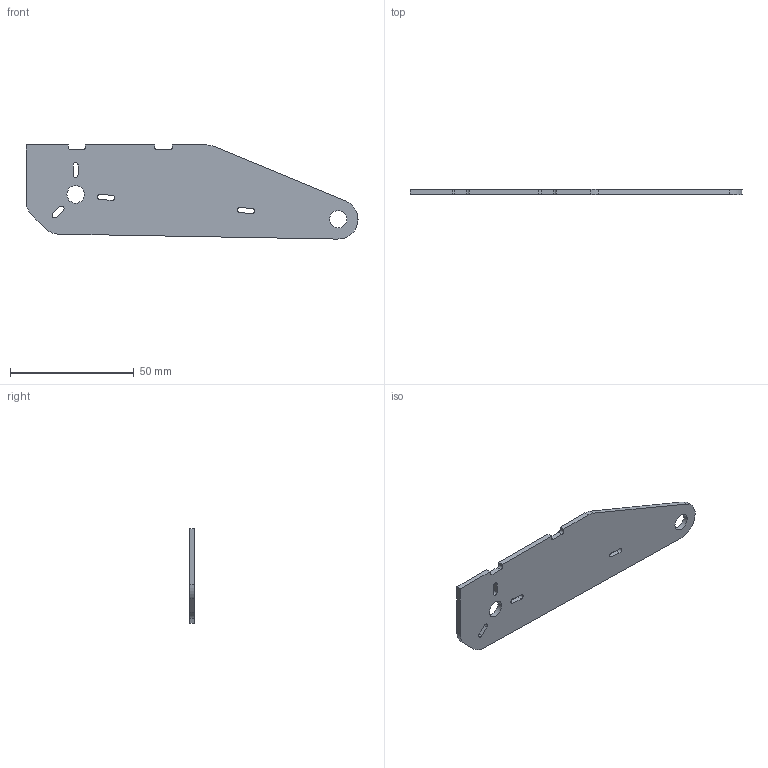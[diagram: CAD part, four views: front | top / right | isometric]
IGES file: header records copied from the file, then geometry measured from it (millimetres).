
Start section: START RECORD GO HERE.
Global section: file name: FR_10001_1 (Frame Brake).igs; native system: IBM CATIA IGES - CATIA Version 5 Release 19 ; preprocessor: CATIA Version 5 Release 19 ; author: jacqu; organization: ASUS-TUF-JACQUE; date: 20200226.091406; units: millimetre
Bounding box: 134 x 2 x 38 mm (x, y, z)
Surface area: 8833.9 mm2 (no closed solid volume)
Topology: 0 solids, 0 shells, 43 faces, 246 edges, 246 vertices
Faces by surface type: plane 23, revolution 20
